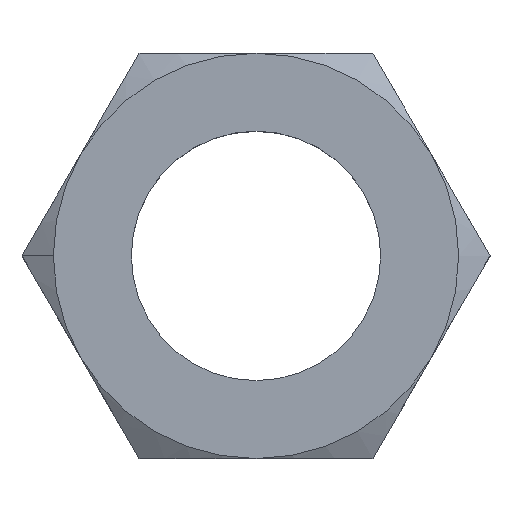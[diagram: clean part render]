
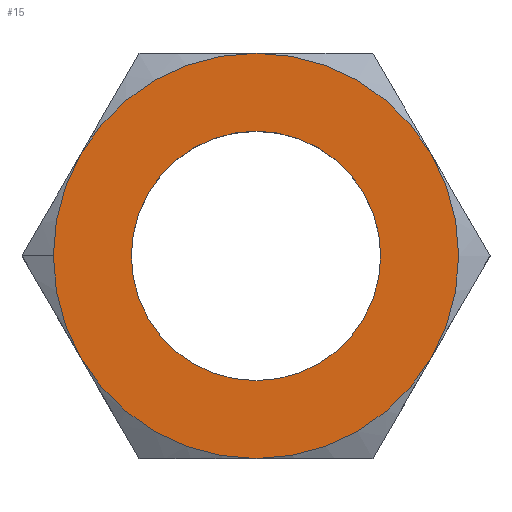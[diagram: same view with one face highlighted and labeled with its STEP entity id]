
A CAD part, top view. The second image highlights one B-rep face of the part: STEP entity #15.
In plain terms, the highlighted planar face has unit normal (0, 0, 1).
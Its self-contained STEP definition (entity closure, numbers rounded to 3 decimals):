
#1 = ORIENTED_EDGE ( 'NONE', *, *, #5, .F. ) ;
#2 = EDGE_CURVE ( 'NONE', #251, #76, #348, .T. ) ;
#4 = EDGE_LOOP ( 'NONE', ( #11, #6, #237, #26, #27, #24, #22 ) ) ;
#5 = EDGE_CURVE ( 'NONE', #140, #139, #282, .T. ) ;
#6 = ORIENTED_EDGE ( 'NONE', *, *, #236, .T. ) ;
#7 = ORIENTED_EDGE ( 'NONE', *, *, #138, .F. ) ;
#8 = EDGE_LOOP ( 'NONE', ( #7, #1 ) ) ;
#11 = ORIENTED_EDGE ( 'NONE', *, *, #2, .T. ) ;
#15 = ADVANCED_FACE ( 'NONE', ( #269, #265 ), #264, .T. ) ;
#22 = ORIENTED_EDGE ( 'NONE', *, *, #23, .T. ) ;
#23 = EDGE_CURVE ( 'NONE', #36, #251, #346, .T. ) ;
#24 = ORIENTED_EDGE ( 'NONE', *, *, #28, .T. ) ;
#26 = ORIENTED_EDGE ( 'NONE', *, *, #29, .T. ) ;
#27 = ORIENTED_EDGE ( 'NONE', *, *, #84, .T. ) ;
#28 = EDGE_CURVE ( 'NONE', #86, #36, #341, .T. ) ;
#29 = EDGE_CURVE ( 'NONE', #103, #85, #336, .T. ) ;
#36 = VERTEX_POINT ( 'NONE', #174 ) ;
#76 = VERTEX_POINT ( 'NONE', #488 ) ;
#84 = EDGE_CURVE ( 'NONE', #85, #86, #554, .T. ) ;
#85 = VERTEX_POINT ( 'NONE', #549 ) ;
#86 = VERTEX_POINT ( 'NONE', #548 ) ;
#103 = VERTEX_POINT ( 'NONE', #568 ) ;
#111 = VERTEX_POINT ( 'NONE', #455 ) ;
#138 = EDGE_CURVE ( 'NONE', #139, #140, #506, .T. ) ;
#139 = VERTEX_POINT ( 'NONE', #499 ) ;
#140 = VERTEX_POINT ( 'NONE', #498 ) ;
#174 = CARTESIAN_POINT ( 'NONE',  ( 0., -6.5, 2. ) ) ;
#236 = EDGE_CURVE ( 'NONE', #76, #111, #695, .T. ) ;
#237 = ORIENTED_EDGE ( 'NONE', *, *, #238, .T. ) ;
#238 = EDGE_CURVE ( 'NONE', #111, #103, #690, .T. ) ;
#251 = VERTEX_POINT ( 'NONE', #716 ) ;
#259 = DIRECTION ( 'NONE',  ( 1., 0., 0. ) ) ;
#260 = DIRECTION ( 'NONE',  ( 0., 0., 1. ) ) ;
#261 = CARTESIAN_POINT ( 'NONE',  ( 3.753, 6.5, 2. ) ) ;
#263 = AXIS2_PLACEMENT_3D ( 'NONE', #261, #260, #259 ) ;
#264 = PLANE ( 'NONE',  #263 ) ;
#265 = FACE_OUTER_BOUND ( 'NONE', #4, .T. ) ;
#269 = FACE_BOUND ( 'NONE', #8, .T. ) ;
#279 = DIRECTION ( 'NONE',  ( 1., 0., 0. ) ) ;
#280 = DIRECTION ( 'NONE',  ( 0., 0., 1. ) ) ;
#281 = AXIS2_PLACEMENT_3D ( 'NONE', #287, #280, #279 ) ;
#282 = CIRCLE ( 'NONE', #281, 4. ) ;
#283 = DIRECTION ( 'NONE',  ( 1., 0., 0. ) ) ;
#284 = DIRECTION ( 'NONE',  ( 0., 0., 1. ) ) ;
#285 = CARTESIAN_POINT ( 'NONE',  ( 0., 0., 2. ) ) ;
#286 = AXIS2_PLACEMENT_3D ( 'NONE', #285, #284, #283 ) ;
#287 = CARTESIAN_POINT ( 'NONE',  ( 0., 0., 2. ) ) ;
#332 = DIRECTION ( 'NONE',  ( 1., 0., 0. ) ) ;
#333 = DIRECTION ( 'NONE',  ( 0., 0., 1. ) ) ;
#334 = CARTESIAN_POINT ( 'NONE',  ( 0., 0., 2. ) ) ;
#335 = AXIS2_PLACEMENT_3D ( 'NONE', #334, #333, #332 ) ;
#336 = CIRCLE ( 'NONE', #335, 6.5 ) ;
#337 = DIRECTION ( 'NONE',  ( 1., 0., 0. ) ) ;
#338 = DIRECTION ( 'NONE',  ( 0., 0., 1. ) ) ;
#339 = CARTESIAN_POINT ( 'NONE',  ( 0., 0., 2. ) ) ;
#340 = AXIS2_PLACEMENT_3D ( 'NONE', #339, #338, #337 ) ;
#341 = CIRCLE ( 'NONE', #340, 6.5 ) ;
#342 = DIRECTION ( 'NONE',  ( 1., 0., 0. ) ) ;
#343 = DIRECTION ( 'NONE',  ( 0., 0., 1. ) ) ;
#344 = CARTESIAN_POINT ( 'NONE',  ( 0., 0., 2. ) ) ;
#345 = AXIS2_PLACEMENT_3D ( 'NONE', #344, #343, #342 ) ;
#346 = CIRCLE ( 'NONE', #345, 6.5 ) ;
#348 = CIRCLE ( 'NONE', #286, 6.5 ) ;
#455 = CARTESIAN_POINT ( 'NONE',  ( 0., 6.5, 2. ) ) ;
#488 = CARTESIAN_POINT ( 'NONE',  ( 5.629, 3.25, 2. ) ) ;
#498 = CARTESIAN_POINT ( 'NONE',  ( 4., 0., 2. ) ) ;
#499 = CARTESIAN_POINT ( 'NONE',  ( -4., 0., 2. ) ) ;
#500 = DIRECTION ( 'NONE',  ( 1., 0., 0. ) ) ;
#501 = DIRECTION ( 'NONE',  ( 0., 0., 1. ) ) ;
#502 = CARTESIAN_POINT ( 'NONE',  ( 0., 0., 2. ) ) ;
#503 = AXIS2_PLACEMENT_3D ( 'NONE', #502, #501, #500 ) ;
#506 = CIRCLE ( 'NONE', #503, 4. ) ;
#548 = CARTESIAN_POINT ( 'NONE',  ( -5.629, -3.25, 2. ) ) ;
#549 = CARTESIAN_POINT ( 'NONE',  ( -6.5, 0., 2. ) ) ;
#550 = DIRECTION ( 'NONE',  ( 1., 0., 0. ) ) ;
#551 = DIRECTION ( 'NONE',  ( 0., 0., 1. ) ) ;
#552 = CARTESIAN_POINT ( 'NONE',  ( 0., 0., 2. ) ) ;
#553 = AXIS2_PLACEMENT_3D ( 'NONE', #552, #551, #550 ) ;
#554 = CIRCLE ( 'NONE', #553, 6.5 ) ;
#568 = CARTESIAN_POINT ( 'NONE',  ( -5.629, 3.25, 2. ) ) ;
#687 = DIRECTION ( 'NONE',  ( 0., 0., 1. ) ) ;
#688 = CARTESIAN_POINT ( 'NONE',  ( 0., 0., 2. ) ) ;
#689 = AXIS2_PLACEMENT_3D ( 'NONE', #688, #687, #740 ) ;
#690 = CIRCLE ( 'NONE', #689, 6.5 ) ;
#691 = DIRECTION ( 'NONE',  ( 1., 0., 0. ) ) ;
#692 = DIRECTION ( 'NONE',  ( 0., 0., 1. ) ) ;
#693 = CARTESIAN_POINT ( 'NONE',  ( 0., 0., 2. ) ) ;
#694 = AXIS2_PLACEMENT_3D ( 'NONE', #693, #692, #691 ) ;
#695 = CIRCLE ( 'NONE', #694, 6.5 ) ;
#716 = CARTESIAN_POINT ( 'NONE',  ( 5.629, -3.25, 2. ) ) ;
#740 = DIRECTION ( 'NONE',  ( 1., 0., 0. ) ) ;
